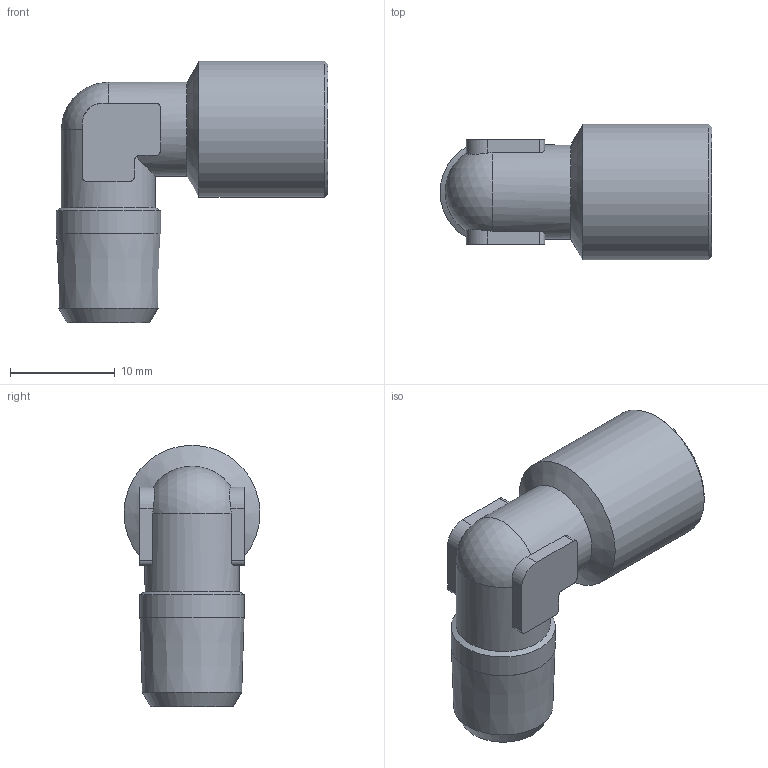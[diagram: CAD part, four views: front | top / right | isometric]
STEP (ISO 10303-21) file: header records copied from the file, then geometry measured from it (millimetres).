
FILE_DESCRIPTION(/* description */ (''),/* implementation_level */ '2;1');
FILE_NAME(/* name */ '50202_110_G18_R18_26.09.16',/* time_stamp */ '2016-09-26T10:50:18+02:00',/* author */ (''),/* organization */ (''),/* preprocessor_version */ 'ST-DEVELOPER v16.5',/* originating_system */ 'HiCAD 2016 2101.0 Build 254',/* authorisation */ '');
FILE_SCHEMA (('AUTOMOTIVE_DESIGN { 1 0 10303 214 1 1 1 1 }'));
Length unit declared in the file: millimetre
Products named in the file (2): Root; 50202
Assembly tree (1 placements, depth 2):
  Root
    50202
Bounding box: 26 x 13 x 25 mm (x, y, z)
Volume: 2171.2 mm3; surface area: 2300.5 mm2
Topology: 1 solids, 1 shells, 57 faces, 148 edges, 94 vertices
Faces by surface type: cylinder 23, plane 17, cone 16, sphere 1
Full cylindrical faces by diameter (mm): 6 x2, 8.566 x1, 9 x2, 10 x1, 13 x1
Entity records: 6888 total; most frequent: CARTESIAN_POINT 4390, DIRECTION 266, PRESENTATION_STYLE_ASSIGNMENT 245, COLOUR_RGB 245, DRAUGHTING_PRE_DEFINED_CURVE_FONT 244, CURVE_STYLE 244, OVER_RIDING_STYLED_ITEM 244, ORIENTED_EDGE 244
